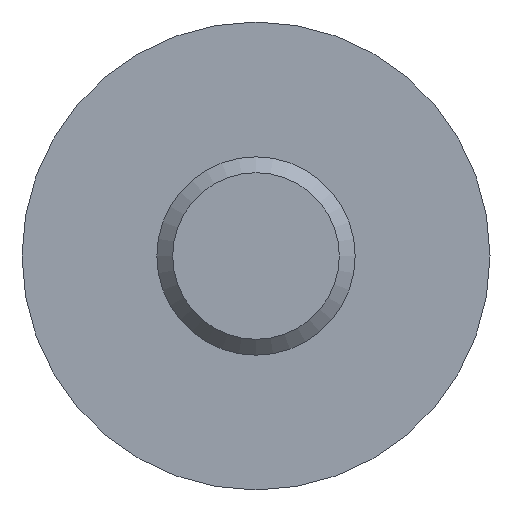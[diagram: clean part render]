
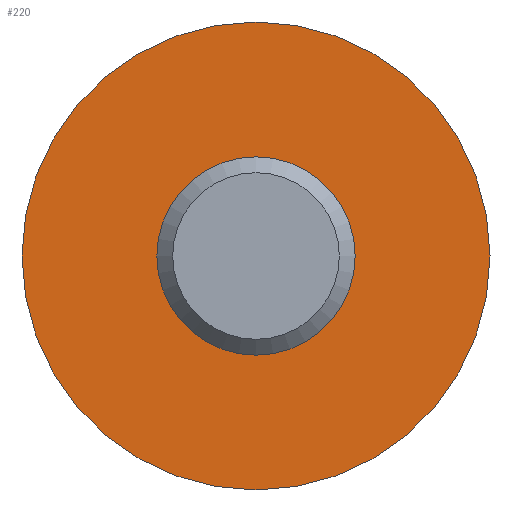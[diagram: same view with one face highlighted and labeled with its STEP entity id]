
A CAD part, front view. The second image highlights one B-rep face of the part: STEP entity #220.
In plain terms, the highlighted planar face has unit normal (0, -1, 0).
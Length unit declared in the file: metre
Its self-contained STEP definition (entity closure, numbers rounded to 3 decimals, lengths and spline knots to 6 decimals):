
#39=PLANE('',#245);
#53=FACE_BOUND('',#76,.T.);
#58=FACE_OUTER_BOUND('',#75,.T.);
#75=EDGE_LOOP('',(#165));
#76=EDGE_LOOP('',(#166));
#91=CIRCLE('',#237,0.0025);
#98=CIRCLE('',#246,0.0059);
#104=VERTEX_POINT('',#336);
#115=VERTEX_POINT('',#396);
#125=EDGE_CURVE('',#104,#104,#91,.F.);
#136=EDGE_CURVE('',#115,#115,#98,.T.);
#165=ORIENTED_EDGE('',*,*,#136,.F.);
#166=ORIENTED_EDGE('',*,*,#125,.F.);
#220=ADVANCED_FACE('',(#58,#53),#39,.F.);
#237=AXIS2_PLACEMENT_3D('',#337,#268,#269);
#245=AXIS2_PLACEMENT_3D('',#395,#284,#285);
#246=AXIS2_PLACEMENT_3D('',#397,#286,#287);
#268=DIRECTION('center_axis',(0.,1.,0.));
#269=DIRECTION('ref_axis',(-1.,0.,0.));
#284=DIRECTION('center_axis',(0.,1.,0.));
#285=DIRECTION('ref_axis',(0.,0.,1.));
#286=DIRECTION('center_axis',(0.,1.,0.));
#287=DIRECTION('ref_axis',(-1.,0.,0.));
#336=CARTESIAN_POINT('',(-0.0025,0.,0.));
#337=CARTESIAN_POINT('Origin',(0.,0.,
0.));
#395=CARTESIAN_POINT('Origin',(0.,0.,
0.));
#396=CARTESIAN_POINT('',(-0.0059,0.,0.));
#397=CARTESIAN_POINT('Origin',(0.,0.,
0.));
